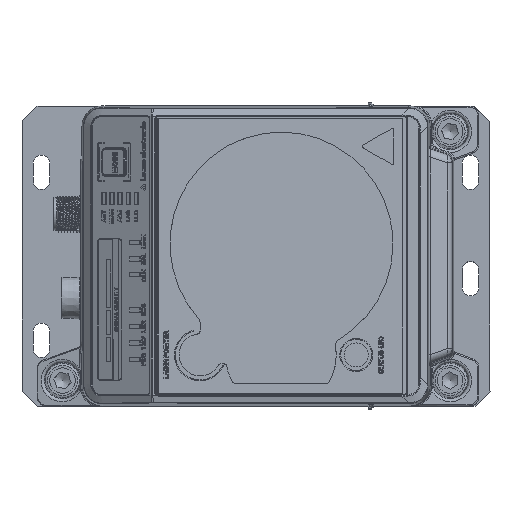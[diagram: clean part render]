
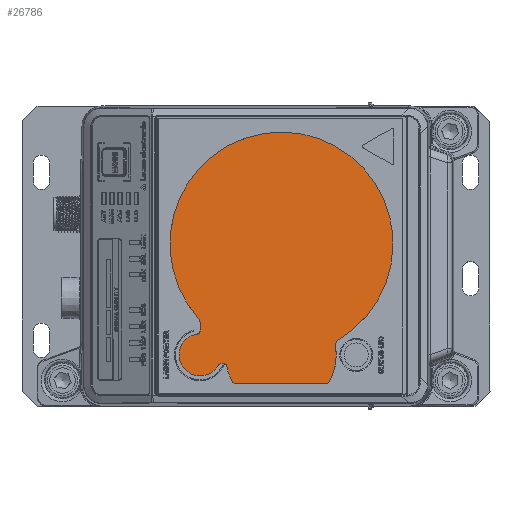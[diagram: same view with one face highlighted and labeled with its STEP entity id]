
A CAD part, top view. The second image highlights one B-rep face of the part: STEP entity #26786.
In plain terms, the highlighted planar face has unit normal (0.07, 0, 0.998).
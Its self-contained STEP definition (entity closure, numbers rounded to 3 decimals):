
#8799=B_SPLINE_CURVE_WITH_KNOTS('',3,(#117209,#117210,#117211,#117212,#117213,
#117214),.UNSPECIFIED.,.F.,.F.,(4,2,4),(0.,0.5,1.),.UNSPECIFIED.);
#8800=B_SPLINE_CURVE_WITH_KNOTS('',3,(#117233,#117234,#117235,#117236),
 .UNSPECIFIED.,.F.,.F.,(4,4),(0.,1.),.UNSPECIFIED.);
#8801=B_SPLINE_CURVE_WITH_KNOTS('',3,(#117249,#117250,#117251,#117252,#117253,
#117254),.UNSPECIFIED.,.F.,.F.,(4,2,4),(0.,0.5,1.),.UNSPECIFIED.);
#8802=B_SPLINE_CURVE_WITH_KNOTS('',3,(#117267,#117268,#117269,#117270),
 .UNSPECIFIED.,.F.,.F.,(4,4),(0.,1.),.UNSPECIFIED.);
#8803=B_SPLINE_CURVE_WITH_KNOTS('',3,(#117327,#117328,#117329,#117330,#117331,
#117332),.UNSPECIFIED.,.F.,.F.,(4,2,4),(0.,0.5,1.),.UNSPECIFIED.);
#10679=PLANE('',#62582);
#13467=FACE_OUTER_BOUND('',#31068,.T.);
#18174=LINE('',#117399,#23344);
#18178=LINE('',#117409,#23348);
#18182=LINE('',#117417,#23352);
#23344=VECTOR('',#73010,1.);
#23348=VECTOR('',#73020,1.);
#23352=VECTOR('',#73026,1.);
#26786=ADVANCED_FACE('',(#13467),#10679,.T.);
#31068=EDGE_LOOP('',(#46243,#46244,#46245,#46246,#46247,#46248,#46249,#46250,
#46251,#46252,#46253,#46254,#46255,#46256,#46257,#46258,#46259));
#46243=ORIENTED_EDGE('',*,*,#58297,.T.);
#46244=ORIENTED_EDGE('',*,*,#58278,.T.);
#46245=ORIENTED_EDGE('',*,*,#58293,.T.);
#46246=ORIENTED_EDGE('',*,*,#58280,.T.);
#46247=ORIENTED_EDGE('',*,*,#58289,.T.);
#46248=ORIENTED_EDGE('',*,*,#58283,.T.);
#46249=ORIENTED_EDGE('',*,*,#58290,.T.);
#46250=ORIENTED_EDGE('',*,*,#58274,.T.);
#46251=ORIENTED_EDGE('',*,*,#58291,.T.);
#46252=ORIENTED_EDGE('',*,*,#58258,.T.);
#46253=ORIENTED_EDGE('',*,*,#58269,.T.);
#46254=ORIENTED_EDGE('',*,*,#58254,.T.);
#46255=ORIENTED_EDGE('',*,*,#58292,.T.);
#46256=ORIENTED_EDGE('',*,*,#58287,.T.);
#46257=ORIENTED_EDGE('',*,*,#58298,.T.);
#46258=ORIENTED_EDGE('',*,*,#58250,.T.);
#46259=ORIENTED_EDGE('',*,*,#58257,.T.);
#50943=VERTEX_POINT('',#117215);
#50944=VERTEX_POINT('',#117216);
#50945=VERTEX_POINT('',#117232);
#50946=VERTEX_POINT('',#117237);
#50947=VERTEX_POINT('',#117248);
#50948=VERTEX_POINT('',#117271);
#50949=VERTEX_POINT('',#117272);
#50952=VERTEX_POINT('',#117392);
#50953=VERTEX_POINT('',#117393);
#50954=VERTEX_POINT('',#117398);
#50955=VERTEX_POINT('',#117400);
#50956=VERTEX_POINT('',#117404);
#50957=VERTEX_POINT('',#117405);
#50958=VERTEX_POINT('',#117410);
#50959=VERTEX_POINT('',#117411);
#50960=VERTEX_POINT('',#117416);
#50961=VERTEX_POINT('',#117418);
#58250=EDGE_CURVE('',#50943,#50944,#8799,.T.);
#58254=EDGE_CURVE('',#50946,#50945,#8800,.T.);
#58257=EDGE_CURVE('',#50944,#50947,#8801,.T.);
#58258=EDGE_CURVE('',#50948,#50949,#8802,.T.);
#58269=EDGE_CURVE('',#50949,#50946,#8803,.T.);
#58274=EDGE_CURVE('',#50952,#50953,#59504,.T.);
#58278=EDGE_CURVE('',#50955,#50954,#18174,.T.);
#58280=EDGE_CURVE('',#50956,#50957,#59505,.T.);
#58283=EDGE_CURVE('',#50958,#50959,#18178,.T.);
#58287=EDGE_CURVE('',#50961,#50960,#18182,.T.);
#58289=EDGE_CURVE('',#50957,#50958,#59506,.T.);
#58290=EDGE_CURVE('',#50959,#50952,#59507,.T.);
#58291=EDGE_CURVE('',#50953,#50948,#59508,.T.);
#58292=EDGE_CURVE('',#50945,#50961,#59509,.T.);
#58293=EDGE_CURVE('',#50954,#50956,#59510,.T.);
#58297=EDGE_CURVE('',#50947,#50955,#59512,.T.);
#58298=EDGE_CURVE('',#50960,#50943,#59513,.T.);
#59504=CIRCLE('',#62360,18.5);
#59505=CIRCLE('',#62363,18.5);
#59506=CIRCLE('',#62367,2.);
#59507=CIRCLE('',#62369,2.);
#59508=CIRCLE('',#62371,2.);
#59509=CIRCLE('',#62373,2.);
#59510=CIRCLE('',#62375,1.);
#59512=CIRCLE('',#62378,1.);
#59513=CIRCLE('',#62380,1.);
#62360=AXIS2_PLACEMENT_3D('',#117391,#73003,#73004);
#62363=AXIS2_PLACEMENT_3D('',#117403,#73014,#73015);
#62367=AXIS2_PLACEMENT_3D('',#117421,#73030,#73031);
#62369=AXIS2_PLACEMENT_3D('',#117423,#73034,#73035);
#62371=AXIS2_PLACEMENT_3D('',#117425,#73038,#73039);
#62373=AXIS2_PLACEMENT_3D('',#117427,#73042,#73043);
#62375=AXIS2_PLACEMENT_3D('',#117429,#73046,#73047);
#62378=AXIS2_PLACEMENT_3D('',#117436,#73054,#73055);
#62380=AXIS2_PLACEMENT_3D('',#117438,#73058,#73059);
#62582=AXIS2_PLACEMENT_3D('',#119592,#73906,#73907);
#73003=DIRECTION('',(0.07,0.,0.998));
#73004=DIRECTION('',(0.,-1.,0.));
#73010=DIRECTION('',(0.998,0.,-0.07));
#73014=DIRECTION('',(0.07,0.,0.998));
#73015=DIRECTION('',(0.,-1.,0.));
#73020=DIRECTION('',(0.998,0.,-0.07));
#73026=DIRECTION('',(0.,-1.,0.));
#73030=DIRECTION('',(0.07,0.,0.998));
#73031=DIRECTION('',(0.,-1.,0.));
#73034=DIRECTION('',(0.07,0.,0.998));
#73035=DIRECTION('',(0.,-1.,0.));
#73038=DIRECTION('',(-0.07,0.,-0.998));
#73039=DIRECTION('',(0.,-1.,0.));
#73042=DIRECTION('',(-0.07,0.,-0.998));
#73043=DIRECTION('',(0.,-1.,0.));
#73046=DIRECTION('',(-0.07,0.,-0.998));
#73047=DIRECTION('',(0.,-1.,0.));
#73054=DIRECTION('',(-0.07,0.,-0.998));
#73055=DIRECTION('',(0.,-1.,0.));
#73058=DIRECTION('',(-0.07,0.,-0.998));
#73059=DIRECTION('',(0.,-1.,0.));
#73906=DIRECTION('',(0.07,0.,0.998));
#73907=DIRECTION('',(-0.998,0.,0.07));
#117209=CARTESIAN_POINT('',(-29.105,0.878,79.537));
#117210=CARTESIAN_POINT('',(-29.105,4.745,79.536));
#117211=CARTESIAN_POINT('',(-32.232,7.878,79.755));
#117212=CARTESIAN_POINT('',(-39.945,7.878,80.294));
#117213=CARTESIAN_POINT('',(-43.071,4.744,80.513));
#117214=CARTESIAN_POINT('',(-43.071,0.878,80.513));
#117215=CARTESIAN_POINT('',(-36.962,7.824,80.086));
#117216=CARTESIAN_POINT('',(-43.071,0.878,80.513));
#117232=CARTESIAN_POINT('',(-36.598,13.002,80.06));
#117233=CARTESIAN_POINT('',(-44.996,28.868,80.647));
#117234=CARTESIAN_POINT('',(-41.707,15.642,80.418));
#117235=CARTESIAN_POINT('',(-31.474,5.274,79.702));
#117236=CARTESIAN_POINT('',(-18.316,1.835,78.782));
#117237=CARTESIAN_POINT('',(-44.996,28.868,80.647));
#117248=CARTESIAN_POINT('',(-30.039,-2.622,79.602));
#117249=CARTESIAN_POINT('',(-43.071,0.878,80.513));
#117250=CARTESIAN_POINT('',(-43.071,-2.988,80.513));
#117251=CARTESIAN_POINT('',(-39.945,-6.122,80.295));
#117252=CARTESIAN_POINT('',(-32.231,-6.121,79.755));
#117253=CARTESIAN_POINT('',(-29.105,-2.987,79.537));
#117254=CARTESIAN_POINT('',(-29.105,0.878,79.537));
#117267=CARTESIAN_POINT('',(0.049,1.735,77.498));
#117268=CARTESIAN_POINT('',(19.962,6.713,76.105));
#117269=CARTESIAN_POINT('',(32.08,26.93,75.258));
#117270=CARTESIAN_POINT('',(27.115,46.891,75.605));
#117271=CARTESIAN_POINT('',(10.036,5.841,76.799));
#117272=CARTESIAN_POINT('',(27.115,46.891,75.605));
#117327=CARTESIAN_POINT('',(27.115,46.891,75.605));
#117328=CARTESIAN_POINT('',(22.15,66.852,75.952));
#117329=CARTESIAN_POINT('',(1.982,79.,77.362));
#117330=CARTESIAN_POINT('',(-37.843,69.046,80.147));
#117331=CARTESIAN_POINT('',(-49.961,48.829,80.994));
#117332=CARTESIAN_POINT('',(-44.996,28.868,80.647));
#117391=CARTESIAN_POINT('',(-9.138,0.878,78.14));
#117392=CARTESIAN_POINT('',(7.197,-7.73,76.998));
#117393=CARTESIAN_POINT('',(9.084,3.805,76.866));
#117398=CARTESIAN_POINT('',(-28.177,-2.123,79.472));
#117399=CARTESIAN_POINT('',(-50.48,-2.124,81.031));
#117400=CARTESIAN_POINT('',(-29.176,-2.123,79.542));
#117403=CARTESIAN_POINT('',(-9.138,0.878,78.14));
#117404=CARTESIAN_POINT('',(-27.201,-2.918,79.403));
#117405=CARTESIAN_POINT('',(-25.473,-7.731,79.283));
#117409=CARTESIAN_POINT('',(-50.479,-8.802,81.031));
#117410=CARTESIAN_POINT('',(-23.707,-8.801,79.159));
#117411=CARTESIAN_POINT('',(5.431,-8.799,77.122));
#117416=CARTESIAN_POINT('',(-36.088,8.816,80.025));
#117417=CARTESIAN_POINT('',(-36.09,80.079,80.024));
#117418=CARTESIAN_POINT('',(-36.088,11.666,80.025));
#117421=CARTESIAN_POINT('',(-23.707,-6.801,79.159));
#117423=CARTESIAN_POINT('',(5.431,-6.799,77.122));
#117425=CARTESIAN_POINT('',(11.054,4.121,76.728));
#117427=CARTESIAN_POINT('',(-38.083,11.666,80.164));
#117429=CARTESIAN_POINT('',(-28.177,-3.123,79.472));
#117436=CARTESIAN_POINT('',(-29.176,-3.123,79.542));
#117438=CARTESIAN_POINT('',(-37.085,8.816,80.094));
#119592=CARTESIAN_POINT('',(31.319,79.705,75.31));
